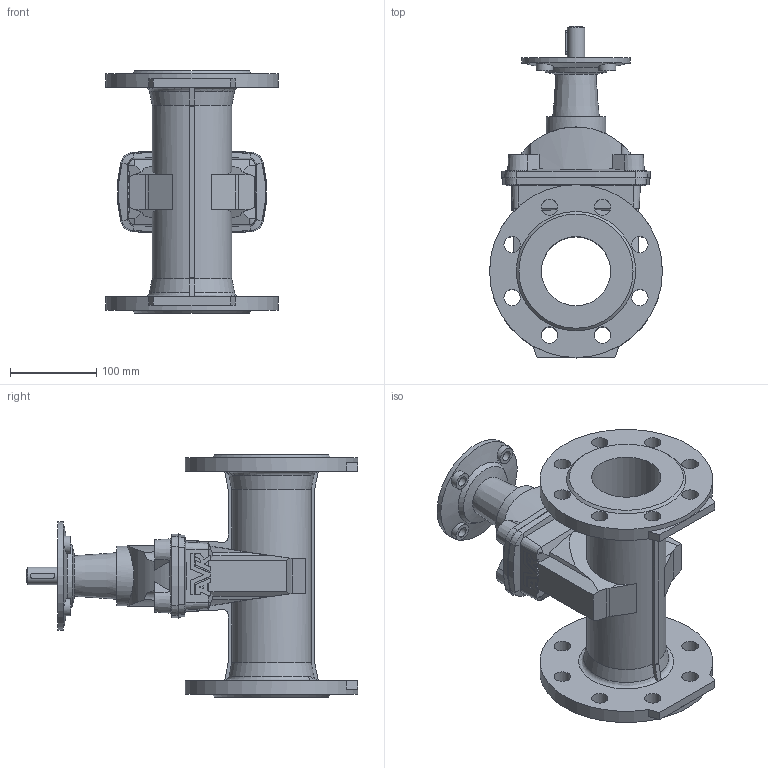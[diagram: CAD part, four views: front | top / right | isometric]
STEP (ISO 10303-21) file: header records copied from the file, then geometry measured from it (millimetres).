
FILE_DESCRIPTION (( 'STEP AP203' ), '1' );
FILE_NAME ('O_15_72_DN080_X1XXX099_AA0.step', '2017-03-10T08:51:02', ( 'Windows User' ), ( 'AVK' ), 'SwSTEP 2.0', 'SolidWorks 2012', '' );
FILE_SCHEMA (( 'CONFIG_CONTROL_DESIGN' ));
Length unit declared in the file: inch
Products named in the file (1): O_15_72_DN080_X1XXX099_AA0
Bounding box: 200 x 383.85 x 280 mm (x, y, z)
Volume: 2981083 mm3; surface area: 385877 mm2
Topology: 1 solids, 1 shells, 285 faces, 799 edges, 526 vertices
Faces by surface type: plane 136, cylinder 90, cone 57, torus 2
Full cylindrical faces by diameter (mm): 12 x4, 19 x16, 20 x5, 69 x1, 80 x1, 125 x1, 200 x2
Entity records: 9962 total; most frequent: CARTESIAN_POINT 2956, ORIENTED_EDGE 1462, DIRECTION 1350, EDGE_CURVE 731, VERTEX_POINT 501, AXIS2_PLACEMENT_3D 475, LINE 400, VECTOR 400
